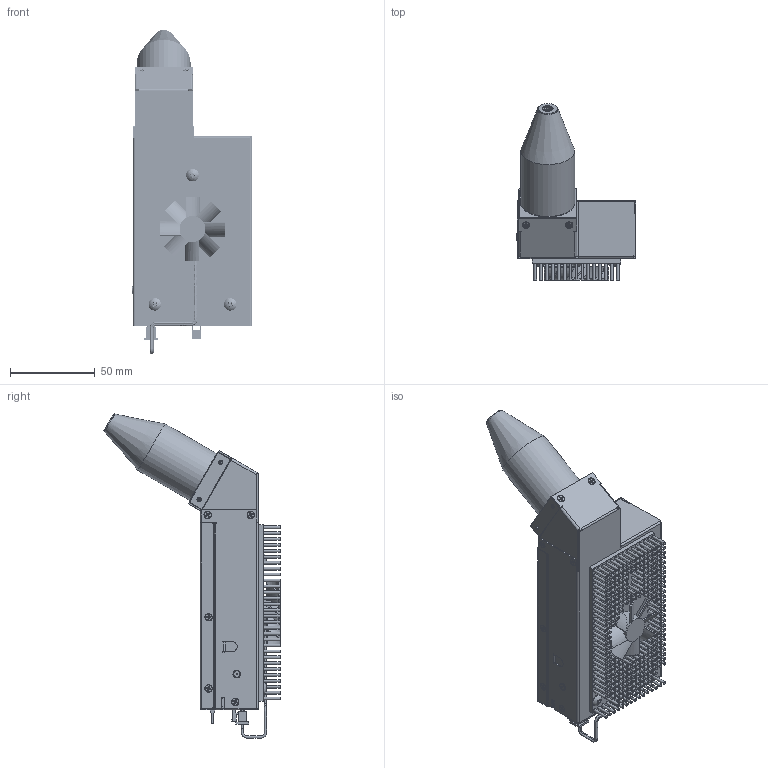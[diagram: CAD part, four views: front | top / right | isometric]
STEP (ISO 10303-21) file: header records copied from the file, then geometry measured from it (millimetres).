
FILE_DESCRIPTION (( 'STEP AP214' ), '1' );
FILE_NAME ('TUB00157-60 DEGREE.STEP', '2025-01-24T20:26:24', ( '' ), ( '' ), 'SwSTEP 2.0', 'SolidWorks 2023', '' );
FILE_SCHEMA (( 'AUTOMOTIVE_DESIGN' ));
Products named in the file (1): TUB00157-60 DEGREE
Bounding box: 70.51 x 103.84 x 190.94 mm (x, y, z)
Volume: 286707.6 mm3; surface area: 89300.3 mm2
Topology: 1 solids, 39 shells, 3055 faces, 7375 edges, 4796 vertices
Faces by surface type: plane 1977, cylinder 735, cone 283, bspline 51, torus 6, sphere 3
Full cylindrical faces by diameter (mm): 1.6 x314, 1.694 x4, 1.778 x8, 1.846 x12, 1.9 x1, 2.05 x11, 2.184 x10, 2.387 x6, 2.819 x1, 3.429 x4, 3.454 x10, 3.87 x9, 3.962 x2, 4.083 x10, 4.19 x16, 4.216 x6, 5.461 x2, 5.588 x6, 6.35 x6, 7.34 x3, 9.652 x1, 11.43 x1, 15.24 x1, 27.94 x1, 31.75 x1
Entity records: 105989 total; most frequent: CARTESIAN_POINT 38952, DIRECTION 13386, ORIENTED_EDGE 13002, EDGE_CURVE 6501, AXIS2_PLACEMENT_3D 4754, VERTEX_POINT 4524, EDGE_LOOP 4241, VECTOR 3878
